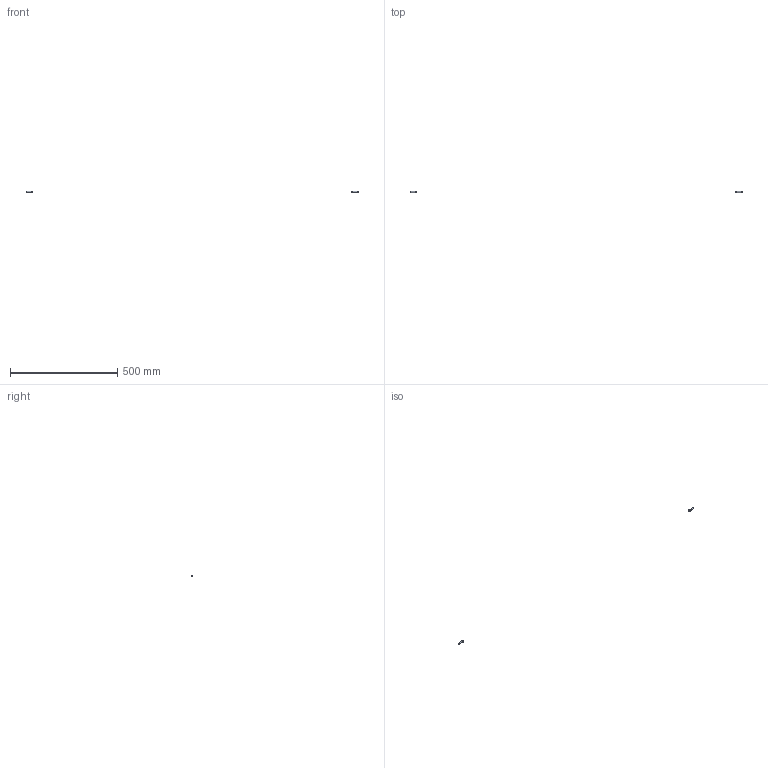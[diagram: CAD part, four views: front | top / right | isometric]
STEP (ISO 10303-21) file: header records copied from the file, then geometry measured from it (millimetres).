
FILE_DESCRIPTION(/* description */ (''),/* implementation_level */ '2;1');
FILE_NAME(/* name */ 'Y-9733~1',/* time_stamp */ '2014-02-14T19:43:14+01:00',/* author */ (''),/* organization */ (''),/* preprocessor_version */ 'ST-DEVELOPER v14',/* originating_system */ '',/* authorisation */ '');
FILE_SCHEMA (('AUTOMOTIVE_DESIGN'));
Length unit declared in the file: millimetre
Products named in the file (2): Document; screw DIN912-like, adhesive, M5x25
Assembly tree (1 placements, depth 2):
  Document
    screw DIN912-like, adhesive, M5x25
Bounding box: 1550 x 8.5 x 8.49 mm (x, y, z)
Volume: 1468.4 mm3; surface area: 1322.3 mm2
Topology: 2 solids, 2 shells, 50 faces, 112 edges, 66 vertices
Faces by surface type: plane 30, bspline 20
Entity records: 2761 total; most frequent: CARTESIAN_POINT 1260, B_SPLINE_CURVE_WITH_KNOTS 252, ORIENTED_EDGE 216, PCURVE 216, DEFINITIONAL_REPRESENTATION 216, SURFACE_CURVE 108, EDGE_CURVE 108, VERTEX_POINT 66
